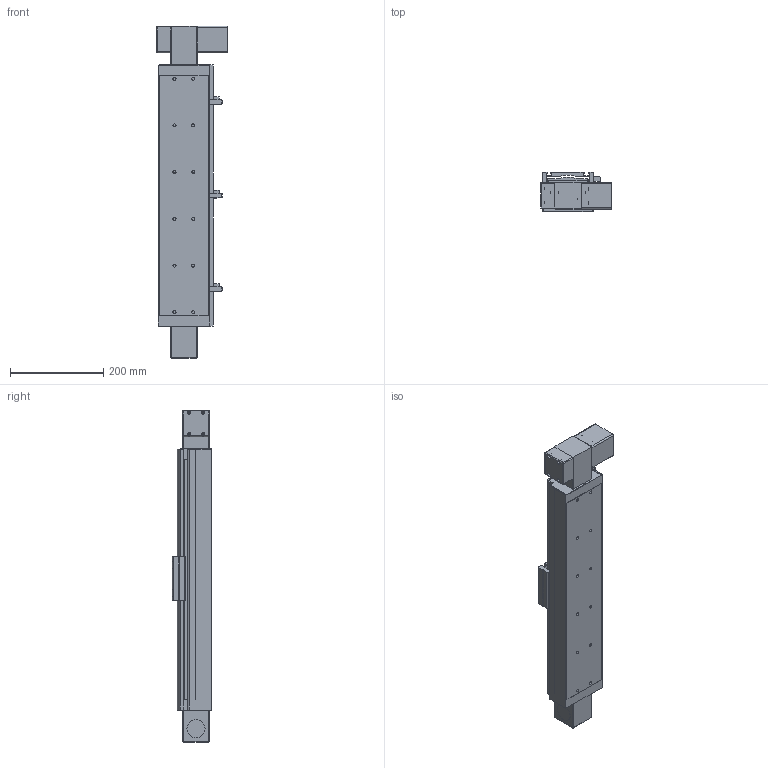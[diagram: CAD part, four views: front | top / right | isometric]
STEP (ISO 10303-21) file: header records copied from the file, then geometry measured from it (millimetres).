
FILE_DESCRIPTION((''),'2;1');
FILE_NAME('E:\uia actuator\UIA actuator 3d- 2015\Belt drive actuator\UIA110BR12(15)DC\UIA110BR12(15)DC-STEP FILE\UIA110BR12(15) stp file 13May16\UIA110BR12(15)DC-400-M23-P13-C10-S.stp','2016-05-13T14:57:52',('h029'),(''),'Autodesk Inventor 11','Autodesk Inventor 11','');
FILE_SCHEMA(('AUTOMOTIVE_DESIGN { 1 0 10303 214 1 1 1 1 }'));
Length unit declared in the file: millimetre
Products named in the file (11): UIA110BR12(15)DC-400; UIA110BR12(15)DC-400-body; UIA110BR12(15)DC-400-Sensor rail; UIA110B-Carriage; UIA110B- Sensor Flag; UIA110B-Cover; SOH-32C; SOH-32C-3; SOH-32C-1; SOH-32C-2; Motor mount
Assembly tree (10 placements, depth 3):
  UIA110BR12(15)DC-400
    UIA110BR12(15)DC-400-body
    UIA110BR12(15)DC-400-Sensor rail
    UIA110B-Carriage
    UIA110B- Sensor Flag
    UIA110B-Cover
    SOH-32C
      SOH-32C-3
      SOH-32C-1
      SOH-32C-2
    Motor mount
Bounding box: 152 x 84.2 x 711 mm (x, y, z)
Volume: 2471226.9 mm3; surface area: 643898.8 mm2
Topology: 9 solids, 13 shells, 724 faces, 2026 edges, 1304 vertices
Faces by surface type: plane 455, cylinder 179, cone 42, bspline 40, sphere 8
Full cylindrical faces by diameter (mm): 2.459 x4, 3 x2, 3.242 x8, 3.5 x4, 4 x10, 4.5 x4, 4.917 x8, 5 x2, 6.35 x1, 6.5 x12, 7.5 x4, 10 x3, 11 x12, 12 x1, 20 x2, 32 x3, 37 x1, 38.1 x1, 39 x2, 43.5 x1, 46 x2
Entity records: 23818 total; most frequent: CARTESIAN_POINT 5765, DIRECTION 3687, ORIENTED_EDGE 3534, EDGE_CURVE 1767, AXIS2_PLACEMENT_3D 1252, VERTEX_POINT 1216, VECTOR 1183, LINE 1183
